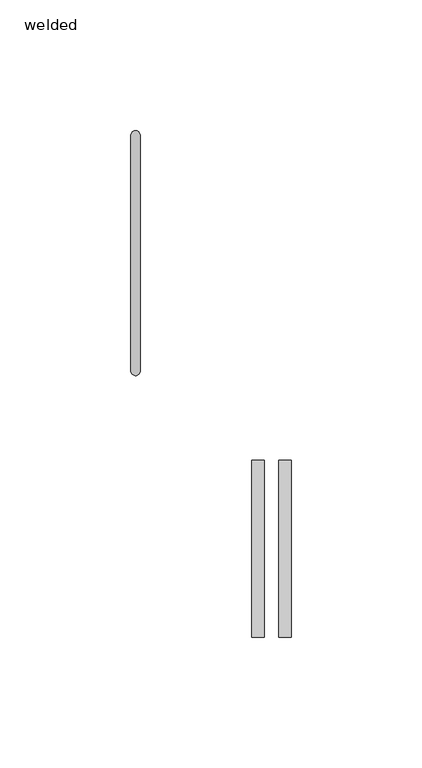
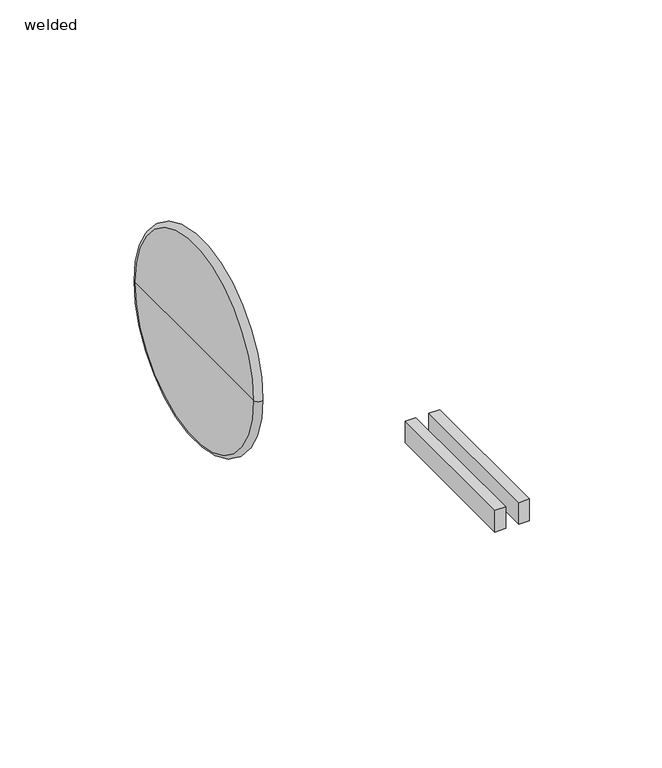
"""IFC4 building model written with IfcOpenShell, lengths in millimetres: pipe fitting geometry, PIF_HDPE weld_Akatherm : welded."""

from ifc_helpers import new_model, si_unit, point, frame, origin, place, context, project, spatial, polyline, circle_curve, ellipse_curve, trimmed, outline, extrude, source, transform, mapped, element, save
from ifc_brep_helpers import plane_surface, revolved_surface, advanced_brep


def welded_5e4001d0(model_context):
    return source(origin(), model_context, "Body", "SolidModel", [
        extrude(outline(polyline([(42.5311847, -146.9421922), (42.5311847, -79.143993), (47.3087456, -79.143993), (47.3087456, -146.9421922), (42.5311847, -146.9421922)])), frame((0.0, 0.0, -15.0), z_axis=(0.0, 0.0, 1.0), x_axis=(1.0, 0.0, 0.0)), (0.0, 0.0, 1.0), 10.0),
        extrude(outline(polyline([(52.9005519, -146.9421922), (52.9005519, -79.143993), (57.6781127, -79.143993), (57.6781127, -146.9421922), (52.9005519, -146.9421922)])), frame((0.0, 0.0, -15.0), z_axis=(0.0, 0.0, 1.0), x_axis=(1.0, 0.0, 0.0)), (0.0, 0.0, 1.0), 10.0),
        advanced_brep(
        [(-3.7, -45.0, 0.0), (-3.7, 45.0, 0.0), (0.0, 45.0, 0.0), (0.0, -45.0, 0.0), (-3.7, 0.0, 0.0), (0.0, 0.0, 0.0)],
        [
            (0, 1, circle_curve(frame((-3.7, 0.0, 0.0), z_axis=(1.0, 0.0, 0.0), x_axis=(0.0, 1.0, 0.0)), 45.0)),
            (1, 2, circle_curve(frame((-1.85, 45.0, 0.0), z_axis=(0.0, 0.0, -1.0), x_axis=(1.0, 0.0, 0.0)), 1.85)),
            (2, 3, circle_curve(frame((0.0, 0.0, 0.0), z_axis=(-1.0, 0.0, 0.0), x_axis=(0.0, 1.0, 0.0)), 45.0)),
            (3, 0, circle_curve(frame((-1.85, -45.0, 0.0), z_axis=(0.0, 0.0, -1.0), x_axis=(1.0, 0.0, 0.0)), 1.85)),
            (1, 0, circle_curve(frame((-3.7, 0.0, 0.0), z_axis=(1.0, 0.0, 0.0), x_axis=(0.0, 1.0, 0.0)), 45.0)),
            (3, 2, circle_curve(frame((0.0, 0.0, 0.0), z_axis=(-1.0, 0.0, 0.0), x_axis=(0.0, 1.0, 0.0)), 45.0)),
            (4, 1),
            (0, 4),
            (2, 5),
            (5, 3),
        ],
        [
            revolved_surface(trimmed(ellipse_curve(frame((-1.85, 45.0, 0.0), z_axis=(0.0, 0.0, 1.0), x_axis=(1.0, 0.0, 0.0)), 1.85, 1.85), [point((0.0, 45.0, 0.0))], [point((-3.7, 45.0, 0.0))], True, "CARTESIAN"), (-41.85, 0.0, 0.0), (-1.0, 0.0, 0.0)),
            plane_surface(frame((-3.7, 0.0, 0.0), z_axis=(-1.0, 0.0, 0.0), x_axis=(0.0, 1.0, 0.0))),
            plane_surface(frame((0.0, 0.0, 0.0), z_axis=(1.0, 0.0, 0.0), x_axis=(0.0, 1.0, 0.0))),
        ],
        [
            (0, [[1, 2, 3, 4]]),
            (0, [[5, -4, 6, -2]]),
            (1, [[7, -1, 8]]),
            (1, [[-8, -5, -7]]),
            (2, [[-3, 9, 10]]),
            (2, [[-6, -10, -9]]),
        ],
    ),
    ])


if __name__ == "__main__":
    model = new_model("IFC4")
    model_context = context("Model", 3, world=origin())
    ifc_project = project(units=[si_unit("LENGTHUNIT", "METRE", prefix="MILLI")], contexts=[model_context])
    site = spatial("IfcSite", under=ifc_project)
    building = spatial("IfcBuilding", under=site)
    placement = place(None, origin())
    welded_shape = welded_5e4001d0(model_context)
    element("IfcPipeFitting", 1, ObjectType="PIF_HDPE weld_Akatherm : welded", at=placement, inside=building, context=model_context, shape_type="MappedRepresentation", body=[
        mapped(welded_shape, transform((0.0, 0.0, 0.0), x_axis=(1.0, 0.0, 0.0), y_axis=(0.0, 1.0, 0.0), z_axis=(0.0, 0.0, 1.0))),
    ])
    save(model, "model.ifc")
